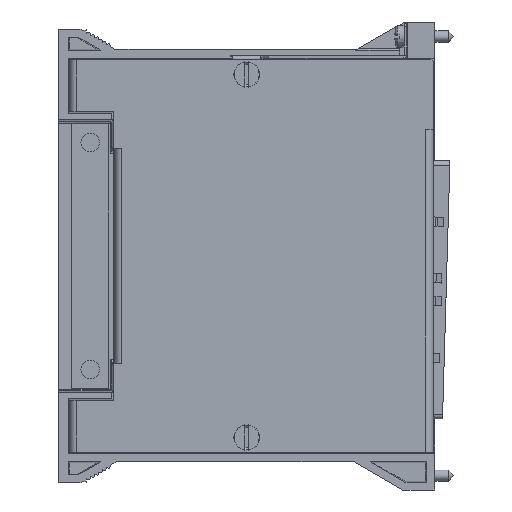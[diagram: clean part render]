
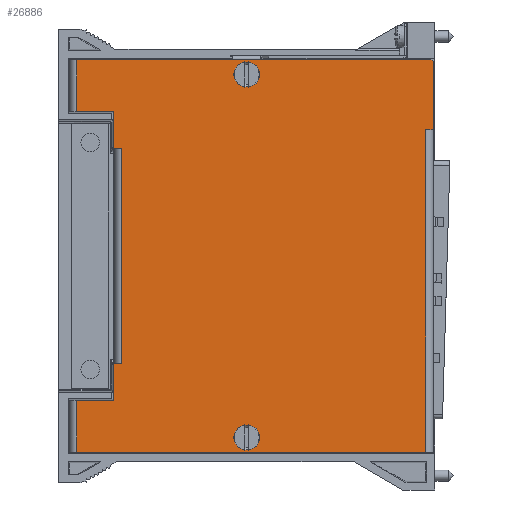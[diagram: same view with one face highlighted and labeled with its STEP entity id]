
A CAD part, top view. The second image highlights one B-rep face of the part: STEP entity #26886.
In plain terms, the highlighted planar face has unit normal (0, 0, 1).
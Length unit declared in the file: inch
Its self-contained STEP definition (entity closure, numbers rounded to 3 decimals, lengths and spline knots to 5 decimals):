
#4487=DIRECTION('',(0.,1.,0.));
#4488=VECTOR('',#4487,0.4575);
#4489=CARTESIAN_POINT('',(-3.15545,-1.73,0.382));
#4490=LINE('',#4489,#4488);
#4510=DIRECTION('',(0.,1.,0.));
#4511=VECTOR('',#4510,0.3225);
#4512=CARTESIAN_POINT('',(-2.82745,-1.2725,0.382));
#4513=LINE('',#4512,#4511);
#4514=DIRECTION('',(-1.,0.,0.));
#4515=VECTOR('',#4514,0.067);
#4516=CARTESIAN_POINT('',(-2.76045,-0.95,0.382));
#4517=LINE('',#4516,#4515);
#4518=DIRECTION('',(-1.,0.,0.));
#4519=VECTOR('',#4518,0.067);
#4520=CARTESIAN_POINT('',(-2.76045,0.95,0.382));
#4521=LINE('',#4520,#4519);
#4522=DIRECTION('',(0.,1.,0.));
#4523=VECTOR('',#4522,0.3225);
#4524=CARTESIAN_POINT('',(-2.82745,0.95,0.382));
#4525=LINE('',#4524,#4523);
#4526=DIRECTION('',(1.,0.,0.));
#4527=VECTOR('',#4526,0.328);
#4528=CARTESIAN_POINT('',(-3.15545,1.2725,0.382));
#4529=LINE('',#4528,#4527);
#4530=DIRECTION('',(-1.,0.,0.));
#4531=VECTOR('',#4530,3.123);
#4532=CARTESIAN_POINT('',(-0.03245,1.73,0.382));
#4533=LINE('',#4532,#4531);
#4534=DIRECTION('',(0.,1.,0.));
#4535=VECTOR('',#4534,0.595);
#4536=CARTESIAN_POINT('',(-0.01245,1.115,0.382));
#4537=LINE('',#4536,#4535);
#4538=DIRECTION('',(1.,0.,0.));
#4539=VECTOR('',#4538,0.067);
#4540=CARTESIAN_POINT('',(-0.07945,1.115,0.382));
#4541=LINE('',#4540,#4539);
#4542=DIRECTION('',(1.,0.,0.));
#4543=VECTOR('',#4542,3.076);
#4544=CARTESIAN_POINT('',(-3.15545,-1.73,0.382));
#4545=LINE('',#4544,#4543);
#4546=DIRECTION('',(1.,0.,0.));
#4547=VECTOR('',#4546,0.328);
#4548=CARTESIAN_POINT('',(-3.15545,-1.2725,0.382));
#4549=LINE('',#4548,#4547);
#4550=CARTESIAN_POINT('',(-1.65625,-1.6,0.382));
#4551=DIRECTION('',(0.,0.,-1.));
#4552=DIRECTION('',(-0.159,0.987,0.));
#4553=AXIS2_PLACEMENT_3D('',#4550,#4551,#4552);
#4555=CARTESIAN_POINT('',(-1.65625,-1.6,0.382));
#4556=DIRECTION('',(0.,0.,-1.));
#4557=DIRECTION('',(0.159,-0.987,0.));
#4558=AXIS2_PLACEMENT_3D('',#4555,#4556,#4557);
#4560=CARTESIAN_POINT('',(-1.65625,1.6,0.382));
#4561=DIRECTION('',(0.,0.,1.));
#4562=DIRECTION('',(0.159,0.987,0.));
#4563=AXIS2_PLACEMENT_3D('',#4560,#4561,#4562);
#4565=CARTESIAN_POINT('',(-1.65625,1.6,0.382));
#4566=DIRECTION('',(0.,0.,1.));
#4567=DIRECTION('',(-0.159,-0.987,0.));
#4568=AXIS2_PLACEMENT_3D('',#4565,#4566,#4567);
#5286=DIRECTION('',(0.,1.,0.));
#5287=VECTOR('',#5286,0.4575);
#5288=CARTESIAN_POINT('',(-3.15545,1.2725,0.382));
#5289=LINE('',#5288,#5287);
#5391=DIRECTION('',(0.,-1.,0.));
#5392=VECTOR('',#5391,1.9);
#5393=CARTESIAN_POINT('',(-2.76045,0.95,0.382));
#5394=LINE('',#5393,#5392);
#6178=DIRECTION('',(-0.707,0.707,0.));
#6179=VECTOR('',#6178,0.02828);
#6180=CARTESIAN_POINT('',(-0.01245,1.71,0.382));
#6181=LINE('',#6180,#6179);
#6251=DIRECTION('',(0.,-1.,0.));
#6252=VECTOR('',#6251,2.845);
#6253=CARTESIAN_POINT('',(-0.07945,1.115,0.382));
#6254=LINE('',#6253,#6252);
#6352=CARTESIAN_POINT('',(-1.67375,-1.4914,0.382));
#6354=CARTESIAN_POINT('',(-1.63875,-1.4914,0.382));
#6379=CARTESIAN_POINT('',(-1.63875,-1.7086,0.382));
#6381=CARTESIAN_POINT('',(-1.67375,-1.7086,0.382));
#6405=CARTESIAN_POINT('',(-1.65625,-1.6,0.382));
#6406=DIRECTION('',(0.,0.,-1.));
#6407=DIRECTION('',(0.159,0.987,0.));
#6408=AXIS2_PLACEMENT_3D('',#6405,#6406,#6407);
#6426=CARTESIAN_POINT('',(-1.65625,-1.6,0.382));
#6427=DIRECTION('',(0.,0.,-1.));
#6428=DIRECTION('',(-0.159,-0.987,0.));
#6429=AXIS2_PLACEMENT_3D('',#6426,#6427,#6428);
#6445=CARTESIAN_POINT('',(-1.67375,1.7086,0.382));
#6457=CARTESIAN_POINT('',(-1.63875,1.7086,0.382));
#6484=CARTESIAN_POINT('',(-1.65625,1.6,0.382));
#6485=DIRECTION('',(0.,0.,-1.));
#6486=DIRECTION('',(0.159,0.987,0.));
#6487=AXIS2_PLACEMENT_3D('',#6484,#6485,#6486);
#6498=CARTESIAN_POINT('',(-1.63875,1.4914,0.382));
#6510=CARTESIAN_POINT('',(-1.67375,1.4914,0.382));
#6524=CARTESIAN_POINT('',(-1.65625,1.6,0.382));
#6525=DIRECTION('',(0.,0.,-1.));
#6526=DIRECTION('',(-0.159,-0.987,0.));
#6527=AXIS2_PLACEMENT_3D('',#6524,#6525,#6526);
#18452=CARTESIAN_POINT('',(-3.15545,1.73,0.382));
#18454=VERTEX_POINT('',#18452);
#18456=CARTESIAN_POINT('',(-3.15545,-1.73,0.382));
#18458=VERTEX_POINT('',#18456);
#18467=CARTESIAN_POINT('',(-3.15545,-1.2725,0.382));
#18468=CARTESIAN_POINT('',(-2.82745,-1.2725,0.382));
#18469=VERTEX_POINT('',#18467);
#18470=VERTEX_POINT('',#18468);
#18471=CARTESIAN_POINT('',(-3.15545,1.2725,0.382));
#18472=CARTESIAN_POINT('',(-2.82745,1.2725,0.382));
#18473=VERTEX_POINT('',#18471);
#18474=VERTEX_POINT('',#18472);
#18511=CARTESIAN_POINT('',(-0.07945,1.115,0.382));
#18512=CARTESIAN_POINT('',(-0.01245,1.115,0.382));
#18513=VERTEX_POINT('',#18511);
#18514=VERTEX_POINT('',#18512);
#18523=CARTESIAN_POINT('',(-0.07945,-1.73,0.382));
#18524=VERTEX_POINT('',#18523);
#18535=CARTESIAN_POINT('',(-2.76045,0.95,0.382));
#18536=CARTESIAN_POINT('',(-2.82745,0.95,0.382));
#18537=VERTEX_POINT('',#18535);
#18538=VERTEX_POINT('',#18536);
#18543=CARTESIAN_POINT('',(-2.76045,-0.95,0.382));
#18544=CARTESIAN_POINT('',(-2.82745,-0.95,0.382));
#18545=VERTEX_POINT('',#18543);
#18546=VERTEX_POINT('',#18544);
#18623=CARTESIAN_POINT('',(-0.01245,1.71,0.382));
#18624=CARTESIAN_POINT('',(-0.03245,1.73,0.382));
#18625=VERTEX_POINT('',#18623);
#18626=VERTEX_POINT('',#18624);
#18737=VERTEX_POINT('',#6379);
#18738=VERTEX_POINT('',#6381);
#18743=VERTEX_POINT('',#6354);
#18744=VERTEX_POINT('',#6352);
#18781=VERTEX_POINT('',#6457);
#18782=VERTEX_POINT('',#6445);
#18787=VERTEX_POINT('',#6498);
#18788=VERTEX_POINT('',#6510);
#26833=CARTESIAN_POINT('',(-3.22245,0.,0.382));
#26834=DIRECTION('',(0.,0.,1.));
#26835=DIRECTION('',(1.,0.,0.));
#26836=AXIS2_PLACEMENT_3D('',#26833,#26834,#26835);
#26837=PLANE('',#26836);
#26839=ORIENTED_EDGE('',*,*,#26838,.T.);
#26841=ORIENTED_EDGE('',*,*,#26840,.F.);
#26843=ORIENTED_EDGE('',*,*,#26842,.F.);
#26845=ORIENTED_EDGE('',*,*,#26844,.T.);
#26847=ORIENTED_EDGE('',*,*,#26846,.T.);
#26849=ORIENTED_EDGE('',*,*,#26848,.F.);
#26851=ORIENTED_EDGE('',*,*,#26850,.T.);
#26852=ORIENTED_EDGE('',*,*,#25673,.F.);
#26854=ORIENTED_EDGE('',*,*,#26853,.F.);
#26856=ORIENTED_EDGE('',*,*,#26855,.F.);
#26858=ORIENTED_EDGE('',*,*,#26857,.F.);
#26860=ORIENTED_EDGE('',*,*,#26859,.T.);
#26861=ORIENTED_EDGE('',*,*,#26633,.F.);
#26862=ORIENTED_EDGE('',*,*,#26803,.T.);
#26863=ORIENTED_EDGE('',*,*,#26816,.T.);
#26864=EDGE_LOOP('',(#26839,#26841,#26843,#26845,#26847,#26849,#26851,#26852,
#26854,#26856,#26858,#26860,#26861,#26862,#26863));
#26865=FACE_OUTER_BOUND('',#26864,.F.);
#26867=ORIENTED_EDGE('',*,*,#26866,.F.);
#26869=ORIENTED_EDGE('',*,*,#26868,.F.);
#26871=ORIENTED_EDGE('',*,*,#26870,.F.);
#26873=ORIENTED_EDGE('',*,*,#26872,.F.);
#26874=EDGE_LOOP('',(#26867,#26869,#26871,#26873));
#26875=FACE_BOUND('',#26874,.F.);
#26877=ORIENTED_EDGE('',*,*,#26876,.T.);
#26879=ORIENTED_EDGE('',*,*,#26878,.F.);
#26881=ORIENTED_EDGE('',*,*,#26880,.T.);
#26883=ORIENTED_EDGE('',*,*,#26882,.F.);
#26884=EDGE_LOOP('',(#26877,#26879,#26881,#26883));
#26885=FACE_BOUND('',#26884,.F.);
#26886=ADVANCED_FACE('',(#26865,#26875,#26885),#26837,.T.);
#4554=CIRCLE('',#4553,0.11);
#4559=CIRCLE('',#4558,0.11);
#4564=CIRCLE('',#4563,0.11);
#4569=CIRCLE('',#4568,0.11);
#6409=CIRCLE('',#6408,0.11);
#6430=CIRCLE('',#6429,0.11);
#6488=CIRCLE('',#6487,0.11);
#6528=CIRCLE('',#6527,0.11);
#25673=EDGE_CURVE('',#18626,#18454,#4533,.T.);
#26633=EDGE_CURVE('',#18458,#18524,#4545,.T.);
#26803=EDGE_CURVE('',#18458,#18469,#4490,.T.);
#26816=EDGE_CURVE('',#18469,#18470,#4549,.T.);
#26838=EDGE_CURVE('',#18470,#18546,#4513,.T.);
#26840=EDGE_CURVE('',#18545,#18546,#4517,.T.);
#26842=EDGE_CURVE('',#18537,#18545,#5394,.T.);
#26844=EDGE_CURVE('',#18537,#18538,#4521,.T.);
#26846=EDGE_CURVE('',#18538,#18474,#4525,.T.);
#26848=EDGE_CURVE('',#18473,#18474,#4529,.T.);
#26850=EDGE_CURVE('',#18473,#18454,#5289,.T.);
#26853=EDGE_CURVE('',#18625,#18626,#6181,.T.);
#26855=EDGE_CURVE('',#18514,#18625,#4537,.T.);
#26857=EDGE_CURVE('',#18513,#18514,#4541,.T.);
#26859=EDGE_CURVE('',#18513,#18524,#6254,.T.);
#26866=EDGE_CURVE('',#18744,#18743,#4554,.T.);
#26868=EDGE_CURVE('',#18738,#18744,#6430,.T.);
#26870=EDGE_CURVE('',#18737,#18738,#4559,.T.);
#26872=EDGE_CURVE('',#18743,#18737,#6409,.T.);
#26876=EDGE_CURVE('',#18781,#18782,#4564,.T.);
#26878=EDGE_CURVE('',#18788,#18782,#6528,.T.);
#26880=EDGE_CURVE('',#18788,#18787,#4569,.T.);
#26882=EDGE_CURVE('',#18781,#18787,#6488,.T.);
